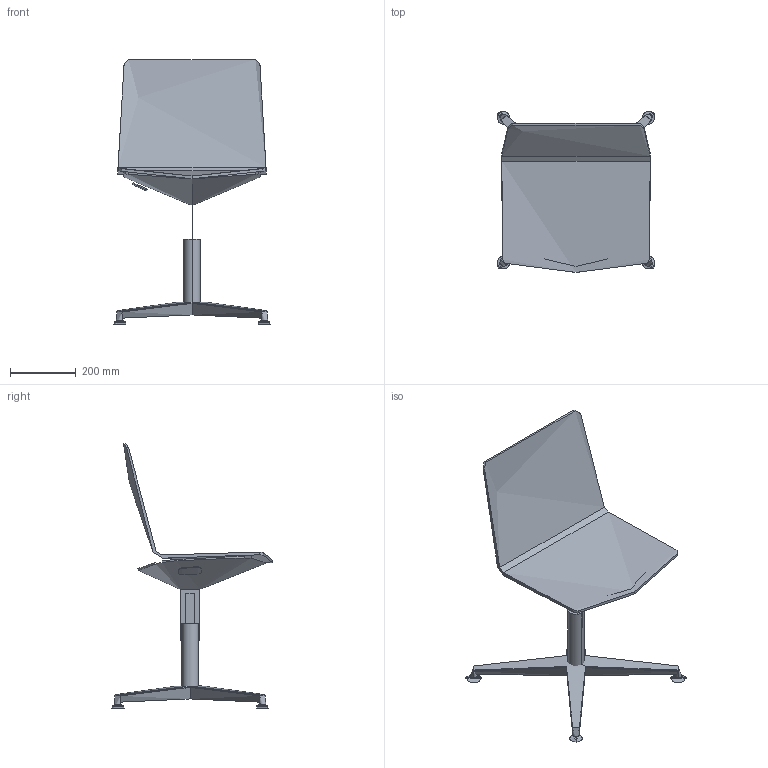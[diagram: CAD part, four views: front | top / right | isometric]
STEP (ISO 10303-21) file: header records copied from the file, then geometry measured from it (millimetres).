
FILE_DESCRIPTION(/* description */ (''),/* implementation_level */ '2;1');
FILE_NAME(/* name */ 'SKYFRE~2',/* time_stamp */ '2016-02-19T12:51:13+01:00',/* author */ (''),/* organization */ (''),/* preprocessor_version */ 'ST-DEVELOPER v15',/* originating_system */ '',/* authorisation */ '');
FILE_SCHEMA (('CONFIG_CONTROL_DESIGN'));
Length unit declared in the file: millimetre
Products named in the file (1): Document
Bounding box: 476.4 x 488.2 x 803.23 mm (x, y, z)
Volume: 3468008.8 mm3; surface area: 1099701 mm2
Topology: 2 solids, 19 shells, 136 faces, 330 edges, 198 vertices
Faces by surface type: bspline 112, plane 24
Entity records: 10833 total; most frequent: CARTESIAN_POINT 8872, ORIENTED_EDGE 558, EDGE_CURVE 319, B_SPLINE_CURVE_WITH_KNOTS 206, VERTEX_POINT 198, ADVANCED_FACE 136, FACE_OUTER_BOUND 136, EDGE_LOOP 136
